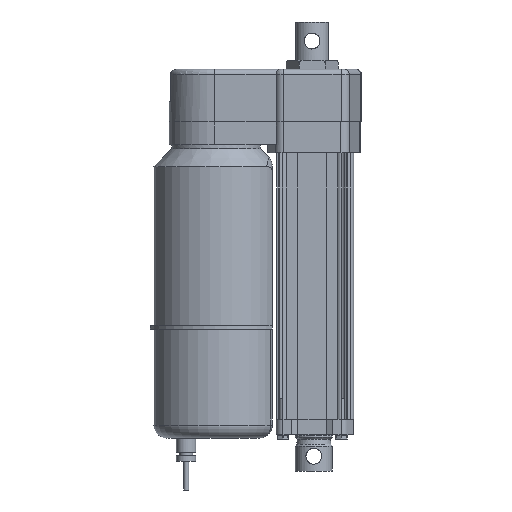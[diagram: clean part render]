
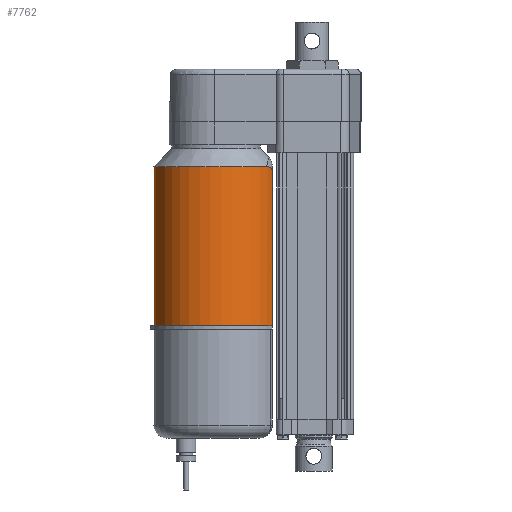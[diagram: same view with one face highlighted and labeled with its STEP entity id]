
A CAD part, left-side view. The second image highlights one B-rep face of the part: STEP entity #7762.
In plain terms, the highlighted cylindrical face has radius 48 mm (diameter 96 mm), a partial arc.
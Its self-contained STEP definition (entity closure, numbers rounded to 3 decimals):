
#179 = CARTESIAN_POINT ( 'NONE',  ( -27.908, 34.847, 53.5 ) ) ;
#205 = CARTESIAN_POINT ( 'NONE',  ( 27.908, 34.847, 53.5 ) ) ;
#311 = CARTESIAN_POINT ( 'NONE',  ( 20.715, 30.6, -69. ) ) ;
#365 = VERTEX_POINT ( 'NONE', #179 ) ;
#372 = VERTEX_POINT ( 'NONE', #311 ) ;
#375 = CARTESIAN_POINT ( 'NONE',  ( 20.715, 30.6, 48.141 ) ) ;
#391 = VERTEX_POINT ( 'NONE', #9722 ) ;
#392 = VERTEX_POINT ( 'NONE', #205 ) ;
#397 = VERTEX_POINT ( 'NONE', #375 ) ;
#902 = FACE_OUTER_BOUND ( 'NONE', #7662, .T. ) ;
#906 = CYLINDRICAL_SURFACE ( 'NONE', #8946, 48. ) ;
#1343 = DIRECTION ( 'NONE',  ( 0., -1., 0. ) ) ;
#1344 = DIRECTION ( 'NONE',  ( 0., 0., 1. ) ) ;
#1345 = CARTESIAN_POINT ( 'NONE',  ( 0., 73.9, 128.5 ) ) ;
#3122 = CARTESIAN_POINT ( 'NONE',  ( -20.715, 30.6, 128.5 ) ) ;
#3129 = DIRECTION ( 'NONE',  ( 0., 0., 1. ) ) ;
#3164 = CARTESIAN_POINT ( 'NONE',  ( 20.715, 30.6, 128.5 ) ) ;
#3174 = DIRECTION ( 'NONE',  ( 0., 0., -1. ) ) ;
#3468 = CARTESIAN_POINT ( 'NONE',  ( 0., 73.9, 53.5 ) ) ;
#3471 = DIRECTION ( 'NONE',  ( 0., 0., 1. ) ) ;
#3473 = DIRECTION ( 'NONE',  ( 0., -1., 0. ) ) ;
#4225 = CARTESIAN_POINT ( 'NONE',  ( 0., 73.9, -69. ) ) ;
#4232 = DIRECTION ( 'NONE',  ( 0., 0., 1. ) ) ;
#4233 = DIRECTION ( 'NONE',  ( 0., -1., 0. ) ) ;
#4236 = CARTESIAN_POINT ( 'NONE',  ( 27.908, 34.847, 53.5 ) ) ;
#4239 = CARTESIAN_POINT ( 'NONE',  ( -20.715, 30.6, 48.141 ) ) ;
#4240 = CARTESIAN_POINT ( 'NONE',  ( 27.154, 34.308, 53.5 ) ) ;
#4241 = CARTESIAN_POINT ( 'NONE',  ( 26.394, 33.798, 53.43 ) ) ;
#4242 = CARTESIAN_POINT ( 'NONE',  ( 25.248, 33.075, 53.187 ) ) ;
#4243 = CARTESIAN_POINT ( 'NONE',  ( 24.866, 32.84, 53.083 ) ) ;
#4244 = CARTESIAN_POINT ( 'NONE',  ( 24.101, 32.387, 52.814 ) ) ;
#4245 = CARTESIAN_POINT ( 'NONE',  ( 23.725, 32.171, 52.651 ) ) ;
#4246 = CARTESIAN_POINT ( 'NONE',  ( 22.996, 31.765, 52.253 ) ) ;
#4247 = CARTESIAN_POINT ( 'NONE',  ( 22.64, 31.573, 52.015 ) ) ;
#4248 = CARTESIAN_POINT ( 'NONE',  ( 22.153, 31.318, 51.594 ) ) ;
#4249 = CARTESIAN_POINT ( 'NONE',  ( 21.999, 31.238, 51.443 ) ) ;
#4250 = CARTESIAN_POINT ( 'NONE',  ( 21.708, 31.089, 51.116 ) ) ;
#4251 = CARTESIAN_POINT ( 'NONE',  ( 21.57, 31.019, 50.938 ) ) ;
#4252 = CARTESIAN_POINT ( 'NONE',  ( 21.325, 30.897, 50.564 ) ) ;
#4253 = CARTESIAN_POINT ( 'NONE',  ( 21.217, 30.844, 50.367 ) ) ;
#4254 = CARTESIAN_POINT ( 'NONE',  ( 21.03, 30.752, 49.954 ) ) ;
#4255 = CARTESIAN_POINT ( 'NONE',  ( 20.952, 30.714, 49.736 ) ) ;
#4256 = CARTESIAN_POINT ( 'NONE',  ( 20.769, 30.626, 49.07 ) ) ;
#4257 = CARTESIAN_POINT ( 'NONE',  ( 20.715, 30.6, 48.608 ) ) ;
#4258 = CARTESIAN_POINT ( 'NONE',  ( 20.715, 30.6, 48.141 ) ) ;
#4263 = CARTESIAN_POINT ( 'NONE',  ( -20.715, 30.6, 48.607 ) ) ;
#4264 = CARTESIAN_POINT ( 'NONE',  ( -20.768, 30.625, 49.063 ) ) ;
#4265 = CARTESIAN_POINT ( 'NONE',  ( -20.949, 30.713, 49.727 ) ) ;
#4266 = CARTESIAN_POINT ( 'NONE',  ( -21.027, 30.751, 49.947 ) ) ;
#4267 = CARTESIAN_POINT ( 'NONE',  ( -21.213, 30.842, 50.361 ) ) ;
#4268 = CARTESIAN_POINT ( 'NONE',  ( -21.321, 30.895, 50.558 ) ) ;
#4269 = CARTESIAN_POINT ( 'NONE',  ( -21.565, 31.017, 50.931 ) ) ;
#4270 = CARTESIAN_POINT ( 'NONE',  ( -21.703, 31.086, 51.11 ) ) ;
#4271 = CARTESIAN_POINT ( 'NONE',  ( -21.994, 31.235, 51.438 ) ) ;
#4272 = CARTESIAN_POINT ( 'NONE',  ( -22.149, 31.315, 51.59 ) ) ;
#4273 = CARTESIAN_POINT ( 'NONE',  ( -22.634, 31.57, 52.011 ) ) ;
#4274 = CARTESIAN_POINT ( 'NONE',  ( -22.991, 31.762, 52.25 ) ) ;
#4275 = CARTESIAN_POINT ( 'NONE',  ( -23.718, 32.167, 52.648 ) ) ;
#4276 = CARTESIAN_POINT ( 'NONE',  ( -24.091, 32.381, 52.81 ) ) ;
#4277 = CARTESIAN_POINT ( 'NONE',  ( -24.85, 32.831, 53.078 ) ) ;
#4278 = CARTESIAN_POINT ( 'NONE',  ( -25.236, 33.067, 53.184 ) ) ;
#4279 = CARTESIAN_POINT ( 'NONE',  ( -26.391, 33.796, 53.43 ) ) ;
#4280 = CARTESIAN_POINT ( 'NONE',  ( -27.154, 34.308, 53.5 ) ) ;
#4281 = CARTESIAN_POINT ( 'NONE',  ( -27.908, 34.847, 53.5 ) ) ;
#5167 = CARTESIAN_POINT ( 'NONE',  ( -20.715, 30.6, -69. ) ) ;
#5873 = EDGE_CURVE ( 'NONE', #9523, #391, #8032, .T. ) ;
#5882 = EDGE_CURVE ( 'NONE', #397, #372, #8075, .T. ) ;
#5916 = EDGE_CURVE ( 'NONE', #392, #365, #8142, .T. ) ;
#6106 = CIRCLE ( 'NONE', #8854, 48. ) ;
#6332 = EDGE_CURVE ( 'NONE', #372, #9523, #6106, .T. ) ;
#6335 = EDGE_CURVE ( 'NONE', #392, #397, #7033, .T. ) ;
#6337 = EDGE_CURVE ( 'NONE', #391, #365, #7034, .T. ) ;
#6557 = AXIS2_PLACEMENT_3D ( 'NONE', #3468, #3471, #3473 ) ;
#7033 = B_SPLINE_CURVE_WITH_KNOTS ( 'NONE', 3,
 ( #4236, #4240, #4241, #4242, #4243, #4244, #4245, #4246, #4247, #4248, #4249, #4250, #4251, #4252, #4253, #4254, #4255, #4256, #4257, #4258 ),
 .UNSPECIFIED., .F., .F.,
 ( 4, 2, 2, 2, 2, 2, 2, 2, 2, 4 ),
 ( 0., 0.003, 0.004, 0.006, 0.007, 0.008, 0.008, 0.009, 0.01, 0.011 ),
 .UNSPECIFIED. ) ;
#7034 = B_SPLINE_CURVE_WITH_KNOTS ( 'NONE', 3,
 ( #4239, #4263, #4264, #4265, #4266, #4267, #4268, #4269, #4270, #4271, #4272, #4273, #4274, #4275, #4276, #4277, #4278, #4279, #4280, #4281 ),
 .UNSPECIFIED., .F., .F.,
 ( 4, 2, 2, 2, 2, 2, 2, 2, 2, 4 ),
 ( 0., 0.001, 0.002, 0.003, 0.003, 0.004, 0.006, 0.007, 0.008, 0.011 ),
 .UNSPECIFIED. ) ;
#7541 = ORIENTED_EDGE ( 'NONE', *, *, #5916, .F. ) ;
#7542 = ORIENTED_EDGE ( 'NONE', *, *, #6335, .T. ) ;
#7563 = ORIENTED_EDGE ( 'NONE', *, *, #5882, .T. ) ;
#7662 = EDGE_LOOP ( 'NONE', ( #7541, #7542, #7563, #9279, #9293, #9291 ) ) ;
#7762 = ADVANCED_FACE ( 'NONE', ( #902 ), #906, .T. ) ;
#8032 = LINE ( 'NONE', #3122, #8069 ) ;
#8069 = VECTOR ( 'NONE', #3129, 1000. ) ;
#8075 = LINE ( 'NONE', #3164, #8084 ) ;
#8084 = VECTOR ( 'NONE', #3174, 1000. ) ;
#8142 = CIRCLE ( 'NONE', #6557, 48. ) ;
#8854 = AXIS2_PLACEMENT_3D ( 'NONE', #4225, #4232, #4233 ) ;
#8946 = AXIS2_PLACEMENT_3D ( 'NONE', #1345, #1344, #1343 ) ;
#9279 = ORIENTED_EDGE ( 'NONE', *, *, #6332, .T. ) ;
#9291 = ORIENTED_EDGE ( 'NONE', *, *, #6337, .T. ) ;
#9293 = ORIENTED_EDGE ( 'NONE', *, *, #5873, .T. ) ;
#9523 = VERTEX_POINT ( 'NONE', #5167 ) ;
#9722 = CARTESIAN_POINT ( 'NONE',  ( -20.715, 30.6, 48.141 ) ) ;
